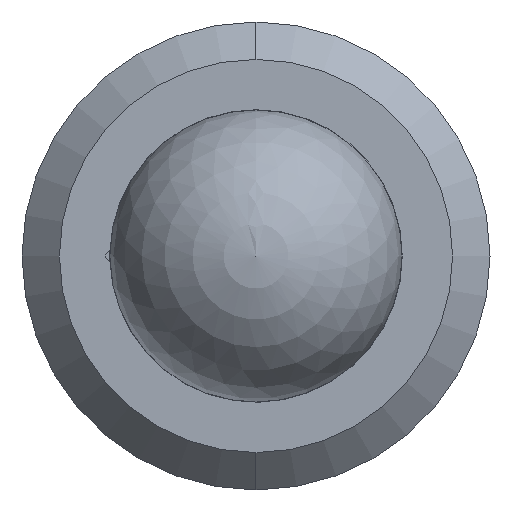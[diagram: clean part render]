
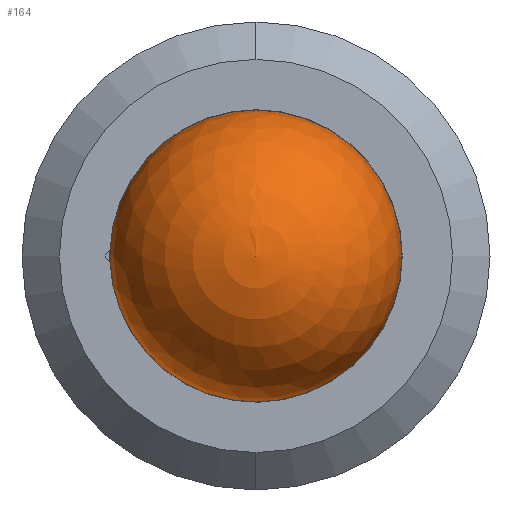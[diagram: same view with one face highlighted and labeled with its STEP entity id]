
A CAD part, left-side view. The second image highlights one B-rep face of the part: STEP entity #164.
In plain terms, the highlighted spherical face has radius 1.984 mm.
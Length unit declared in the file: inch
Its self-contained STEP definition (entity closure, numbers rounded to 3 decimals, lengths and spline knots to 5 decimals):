
#36 = AXIS2_PLACEMENT_3D ( 'NONE', #323, #390, #799 ) ;
#78 = AXIS2_PLACEMENT_3D ( 'NONE', #474, #601, #604 ) ;
#89 = EDGE_CURVE ( 'NONE', #523, #99, #222, .T. ) ;
#99 = VERTEX_POINT ( 'NONE', #538 ) ;
#100 = EDGE_CURVE ( 'NONE', #99, #438, #735, .T. ) ;
#101 = EDGE_CURVE ( 'NONE', #523, #438, #581, .T. ) ;
#108 = AXIS2_PLACEMENT_3D ( 'NONE', #466, #463, #185 ) ;
#151 = CARTESIAN_POINT ( 'NONE',  ( 0., 0.07809, 0.0025 ) ) ;
#164 = ADVANCED_FACE ( 'NONE', ( #317 ), #859, .T. ) ;
#185 = DIRECTION ( 'NONE',  ( 0., 0., 1. ) ) ;
#204 = ORIENTED_EDGE ( 'NONE', *, *, #101, .F. ) ;
#222 = CIRCLE ( 'NONE', #108, 0.07813 ) ;
#306 = ORIENTED_EDGE ( 'NONE', *, *, #100, .T. ) ;
#317 = FACE_OUTER_BOUND ( 'NONE', #409, .T. ) ;
#323 = CARTESIAN_POINT ( 'NONE',  ( 0., 0., 0. ) ) ;
#390 = DIRECTION ( 'NONE',  ( 1., 0., 0. ) ) ;
#406 = CARTESIAN_POINT ( 'NONE',  ( 0., 0., 0. ) ) ;
#409 = EDGE_LOOP ( 'NONE', ( #858, #306, #204 ) ) ;
#438 = VERTEX_POINT ( 'NONE', #559 ) ;
#463 = DIRECTION ( 'NONE',  ( -1., 0., 0. ) ) ;
#466 = CARTESIAN_POINT ( 'NONE',  ( 0., 0., 0. ) ) ;
#474 = CARTESIAN_POINT ( 'NONE',  ( 0., 0., 0. ) ) ;
#523 = VERTEX_POINT ( 'NONE', #151 ) ;
#538 = CARTESIAN_POINT ( 'NONE',  ( 0., 0.07809, -0.0025 ) ) ;
#555 = DIRECTION ( 'NONE',  ( 0., 0., 1. ) ) ;
#559 = CARTESIAN_POINT ( 'NONE',  ( 0., -0.07813, 0. ) ) ;
#581 = CIRCLE ( 'NONE', #36, 0.07813 ) ;
#601 = DIRECTION ( 'NONE',  ( -1., 0., 0. ) ) ;
#604 = DIRECTION ( 'NONE',  ( 0., 0., 1. ) ) ;
#735 = CIRCLE ( 'NONE', #78, 0.07813 ) ;
#799 = DIRECTION ( 'NONE',  ( 0., 0., -1. ) ) ;
#811 = DIRECTION ( 'NONE',  ( -1., 0., 0. ) ) ;
#858 = ORIENTED_EDGE ( 'NONE', *, *, #89, .T. ) ;
#859 = SPHERICAL_SURFACE ( 'NONE', #872, 0.07813 ) ;
#872 = AXIS2_PLACEMENT_3D ( 'NONE', #406, #811, #555 ) ;
